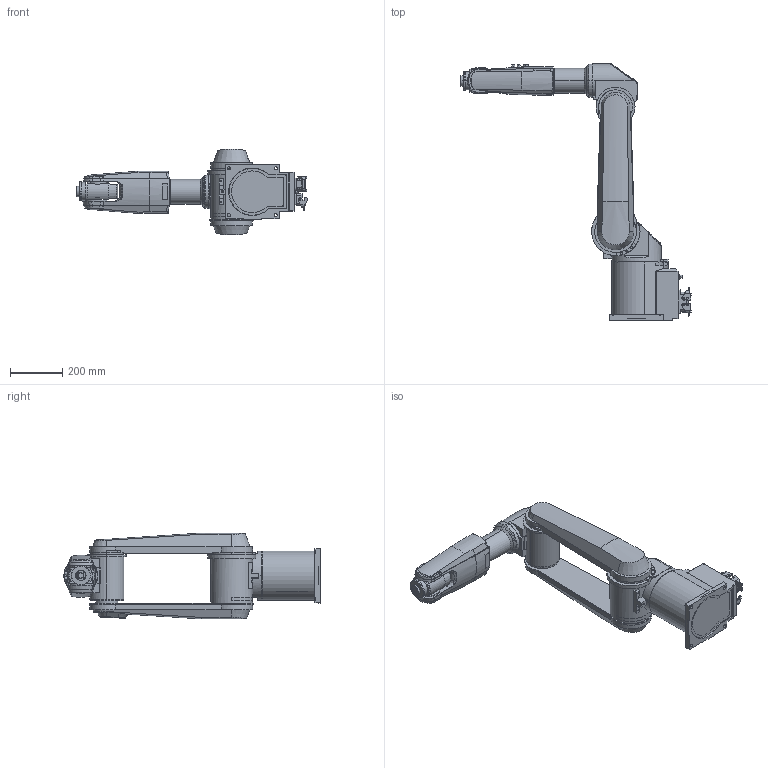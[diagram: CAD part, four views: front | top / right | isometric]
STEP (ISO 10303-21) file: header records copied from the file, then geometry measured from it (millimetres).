
FILE_DESCRIPTION((''),'2;1');
FILE_NAME('TV1000_3D_ASM','2024-06-26T16:30:43',('15575'),(''),'CREO PARAMETRIC BY PTC INC, 2020454','CREO PARAMETRIC BY PTC INC, 2020454','');
FILE_SCHEMA(('AUTOMOTIVE_DESIGN { 1 0 10303 214 1 1 1 1 }'));
Products named in the file (7): TV1000_BASE; TV1000_BASE_TURN_; TV1000_1ST_ARM_; TV1000_2ND_ARM1; TV1000_2ND_ARM2; TV1000_3RD_ARM_; TV1000_3D_ASM
Assembly tree (7 placements, depth 2):
  TV1000_3D_ASM
    TV1000_BASE
    TV1000_BASE_TURN_
    TV1000_1ST_ARM_
    TV1000_2ND_ARM1
    TV1000_2ND_ARM2  x2
    TV1000_3RD_ARM_
Bounding box: 885.9 x 985.52 x 330 mm (x, y, z)
Volume: 32198260.3 mm3; surface area: 2051266.6 mm2
Topology: 10 solids, 52 shells, 2136 faces, 5565 edges, 3679 vertices
Faces by surface type: plane 1156, cylinder 743, torus 79, cone 74, bspline 48, sphere 24, extrusion 10, revolution 2
Entity records: 65283 total; most frequent: CARTESIAN_POINT 13139, DIRECTION 9790, ORIENTED_EDGE 9598, EDGE_CURVE 4805, AXIS2_PLACEMENT_3D 3472, VERTEX_POINT 3183, VECTOR 2844, LINE 2834
